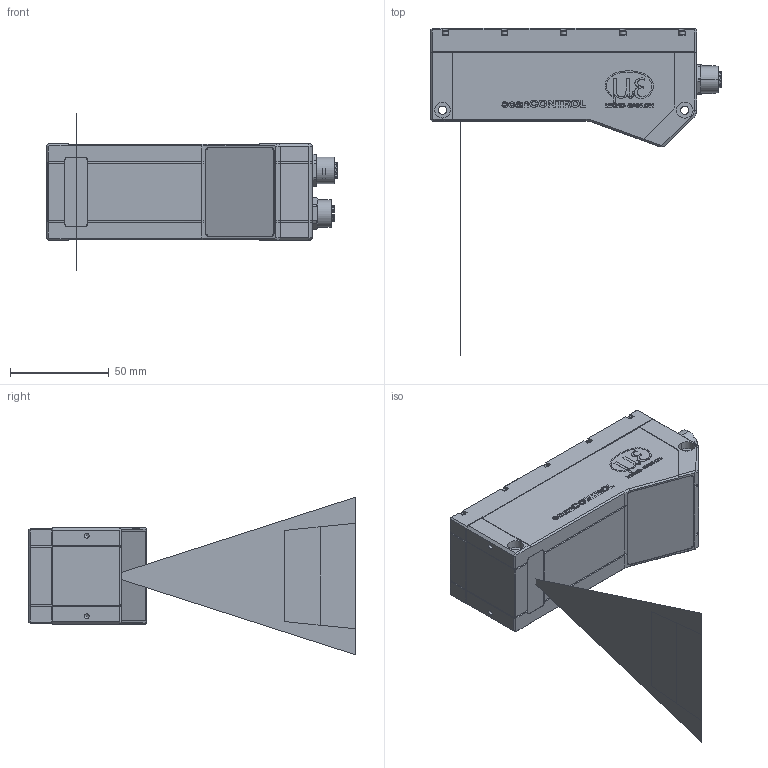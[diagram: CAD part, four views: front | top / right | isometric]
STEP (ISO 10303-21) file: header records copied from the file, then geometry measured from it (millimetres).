
FILE_DESCRIPTION (( 'STEP AP214' ), '1' );
FILE_NAME ('LLT8500-MB50_mit Messbereichsfeld.step', '2025-04-16T07:09:17', ( '' ), ( '' ), 'SwSTEP 2.0', 'SolidWorks 2022', '' );
FILE_SCHEMA (( 'AUTOMOTIVE_DESIGN' ));
Length unit declared in the file: millimetre
Products named in the file (1): LLT8500-MB50_mit Messbereichsfeld
Bounding box: 147.6 x 166 x 80 mm (x, y, z)
Volume: 323829.5 mm3; surface area: 46715.5 mm2
Topology: 2 solids, 15 shells, 2719 faces, 7055 edges, 4548 vertices
Faces by surface type: plane 1368, bspline 731, cylinder 382, cone 174, torus 64
Full cylindrical faces by diameter (mm): 0.72 x19, 1.6 x4, 2.2 x15, 2.5 x2, 2.921 x10, 3 x14, 4.2 x2, 8 x2, 17 x2
Entity records: 134816 total; most frequent: CARTESIAN_POINT 44410, ORIENTED_EDGE 13622, DIRECTION 10166, EDGE_CURVE 6811, VERTEX_POINT 4468, VECTOR 4026, LINE 4026, AXIS2_PLACEMENT_3D 3070
